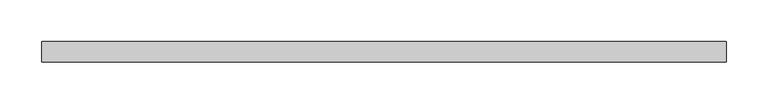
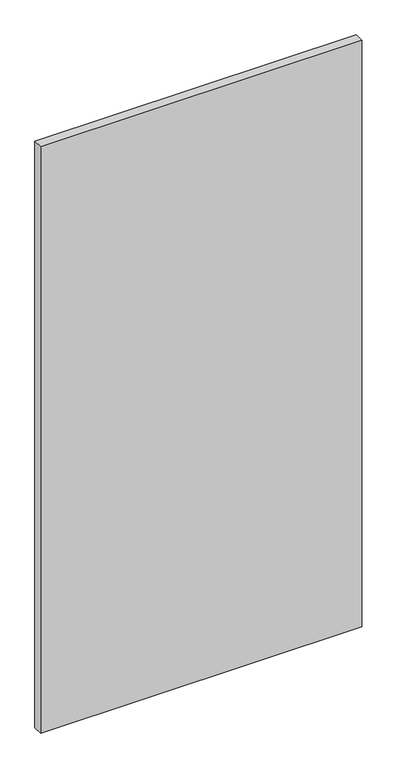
"""IFC4 building model written with IfcOpenShell, lengths in millimetres: plate geometry, 系统嵌板 : 玻璃."""

from ifc_helpers import new_model, si_unit, origin, origin_with_axes, place, context, project, spatial, polyline, outline, extrude, source, transform, mapped, element, save


def plate_78e2e13e(model_context):
    return source(origin(), model_context, "Body", "SweptSolid", [
        extrude(outline(polyline([(412.5, -12.5), (-412.5, -12.5), (-412.5, 12.5), (412.5, 12.5), (412.5, -12.5)])), origin_with_axes(), (0.0, 0.0, 1.0), 1591.6666667),
    ])


if __name__ == "__main__":
    model = new_model("IFC4")
    model_context = context("Model", 3, world=origin())
    ifc_project = project(units=[si_unit("LENGTHUNIT", "METRE", prefix="MILLI")], contexts=[model_context])
    site = spatial("IfcSite", under=ifc_project)
    building = spatial("IfcBuilding", under=site)
    placement = place(None, origin())
    plate_shape = plate_78e2e13e(model_context)
    element("IfcPlate", 1, ObjectType="系统嵌板 : 玻璃", at=placement, inside=building, context=model_context, shape_type="MappedRepresentation", body=[
        mapped(plate_shape, transform((0.0, 0.0, 0.0), x_axis=(1.0, 0.0, 0.0), y_axis=(0.0, 1.0, 0.0), z_axis=(0.0, 0.0, 1.0))),
    ])
    save(model, "model.ifc")
